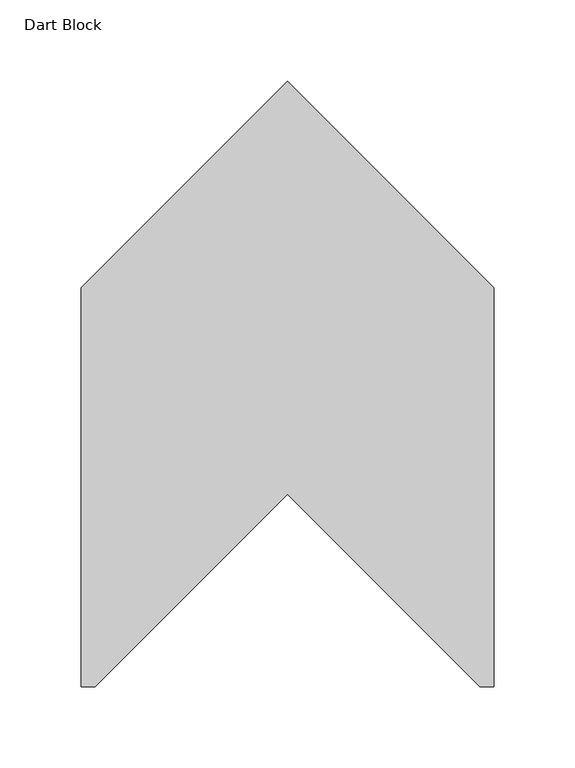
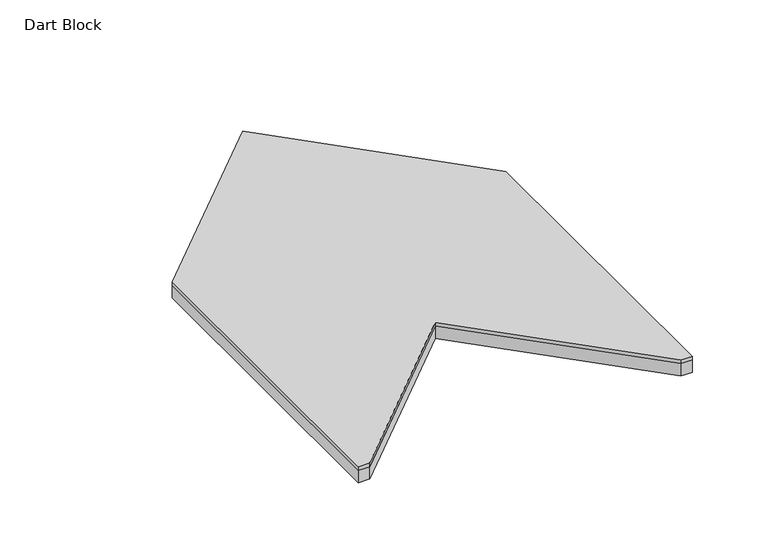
"""IFC4 building model written with IfcOpenShell, lengths in millimetres: proxy geometry, FilzFelt_Dart_Block : Dart Block."""

from ifc_helpers import new_model, si_unit, frame, origin, origin_with_axes, place, context, project, spatial, polyline, outline, extrude, source, transform, mapped, element, save


def dart_block_a08385c4(model_context):
    return source(origin(), model_context, "Body", "SweptSolid", [
        extrude(outline(polyline([(0.0, 190.5), (127.0, 63.5), (127.0, -181.9083878), (118.4083878, -181.9083878), (0.0, -63.5), (-118.4083878, -181.9083878), (-127.0, -181.9083878), (-127.0, 63.5), (0.0, 190.5)])), frame((0.0, 0.0, 10.0210937), z_axis=(0.0, 0.0, 1.0), x_axis=(1.0, 0.0, 0.0)), (0.0, 0.0, 1.0), 2.9765625),
        extrude(outline(polyline([(-127.0, 63.5), (0.0, 190.5), (127.0, 63.5), (127.0, -181.9083878), (118.4083878, -181.9083878), (0.0, -63.5), (-118.4083878, -181.9083878), (-127.0, -181.9083878), (-127.0, 63.5)])), origin_with_axes(), (0.0, 0.0, 1.0), 10.0210938),
    ])


if __name__ == "__main__":
    model = new_model("IFC4")
    model_context = context("Model", 3, world=origin())
    ifc_project = project(units=[si_unit("LENGTHUNIT", "METRE", prefix="MILLI")], contexts=[model_context])
    site = spatial("IfcSite", under=ifc_project)
    building = spatial("IfcBuilding", under=site)
    placement = place(None, origin())
    dart_block_shape = dart_block_a08385c4(model_context)
    element("IfcBuildingElementProxy", 1, Name="FilzFelt_Dart_Block : Dart Block", ObjectType="FilzFelt_Dart_Block : Dart Block", at=placement, inside=building, context=model_context, shape_type="MappedRepresentation", body=[
        mapped(dart_block_shape, transform((0.0, 0.0, 0.0), x_axis=(1.0, 0.0, 0.0), y_axis=(0.0, 1.0, 0.0), z_axis=(0.0, 0.0, 1.0))),
    ])
    save(model, "model.ifc")
